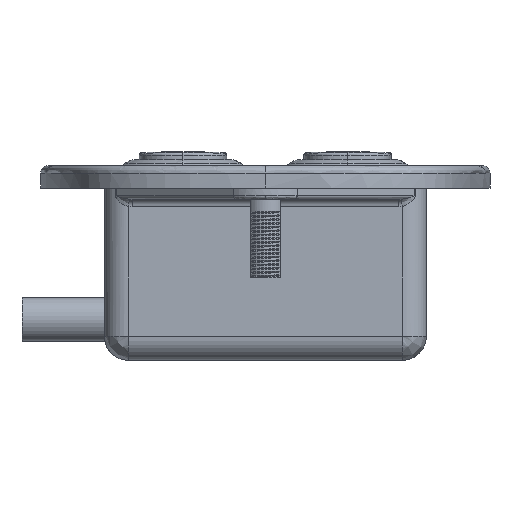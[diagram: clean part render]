
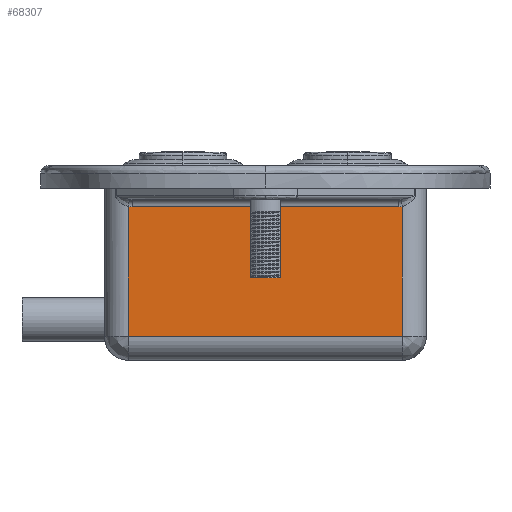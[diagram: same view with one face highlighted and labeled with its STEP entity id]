
A CAD part, left-side view. The second image highlights one B-rep face of the part: STEP entity #68307.
In plain terms, the highlighted planar face has unit normal (-1, 0, 0).
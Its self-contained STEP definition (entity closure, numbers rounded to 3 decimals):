
#197 = B_SPLINE_CURVE_WITH_KNOTS ( 'NONE', 3,
 ( #41383, #93366, #126790, #41829 ),
 .UNSPECIFIED., .F., .F.,
 ( 4, 4 ),
 ( 0., 1. ),
 .UNSPECIFIED. ) ;
#401 = VERTEX_POINT ( 'NONE', #64191 ) ;
#1381 = LINE ( 'NONE', #44024, #36023 ) ;
#1688 = ORIENTED_EDGE ( 'NONE', *, *, #85361, .T. ) ;
#3763 = EDGE_CURVE ( 'NONE', #90637, #101911, #119377, .T. ) ;
#7735 = CARTESIAN_POINT ( 'NONE',  ( -48., -18.3, -22.8 ) ) ;
#8974 = VERTEX_POINT ( 'NONE', #37487 ) ;
#22528 = ORIENTED_EDGE ( 'NONE', *, *, #125964, .T. ) ;
#23886 = VECTOR ( 'NONE', #99784, 1000. ) ;
#23968 = EDGE_CURVE ( 'NONE', #56905, #73973, #36510, .T. ) ;
#27788 = LINE ( 'NONE', #50992, #98562 ) ;
#30096 = EDGE_LOOP ( 'NONE', ( #1688, #108242, #22528, #70839, #40248, #120038 ) ) ;
#33458 = CARTESIAN_POINT ( 'NONE',  ( -48., 21.5, -5.5 ) ) ;
#36023 = VECTOR ( 'NONE', #88210, 1000. ) ;
#36510 = LINE ( 'NONE', #33458, #123608 ) ;
#36633 = CARTESIAN_POINT ( 'NONE',  ( -48., -17.955, -5.5 ) ) ;
#37487 = CARTESIAN_POINT ( 'NONE',  ( -48., 18.3, -5.454 ) ) ;
#40248 = ORIENTED_EDGE ( 'NONE', *, *, #87559, .F. ) ;
#41383 = CARTESIAN_POINT ( 'NONE',  ( -48., 17.778, -5.5 ) ) ;
#41829 = CARTESIAN_POINT ( 'NONE',  ( -48., 18.3, -5.454 ) ) ;
#42170 = CARTESIAN_POINT ( 'NONE',  ( -48., -18.3, -5.454 ) ) ;
#44024 = CARTESIAN_POINT ( 'NONE',  ( -48., 18.3, -3. ) ) ;
#44355 = CARTESIAN_POINT ( 'NONE',  ( -48., 17.778, -5.5 ) ) ;
#50992 = CARTESIAN_POINT ( 'NONE',  ( -48., 21.5, -22.8 ) ) ;
#56905 = VERTEX_POINT ( 'NONE', #44355 ) ;
#59606 = CARTESIAN_POINT ( 'NONE',  ( -48., -17.778, -5.5 ) ) ;
#64191 = CARTESIAN_POINT ( 'NONE',  ( -48., 18.3, -22.8 ) ) ;
#68294 = CARTESIAN_POINT ( 'NONE',  ( -48., -17.778, -5.5 ) ) ;
#68307 = ADVANCED_FACE ( 'NONE', ( #129198 ), #82271, .F. ) ;
#70839 = ORIENTED_EDGE ( 'NONE', *, *, #88087, .F. ) ;
#73973 = VERTEX_POINT ( 'NONE', #59606 ) ;
#79985 = AXIS2_PLACEMENT_3D ( 'NONE', #134603, #92883, #104353 ) ;
#82271 = PLANE ( 'NONE',  #79985 ) ;
#85361 = EDGE_CURVE ( 'NONE', #90637, #73973, #104921, .T. ) ;
#87559 = EDGE_CURVE ( 'NONE', #101911, #401, #27788, .T. ) ;
#88087 = EDGE_CURVE ( 'NONE', #401, #8974, #1381, .T. ) ;
#88210 = DIRECTION ( 'NONE',  ( 0., 0., 1. ) ) ;
#88573 = CARTESIAN_POINT ( 'NONE',  ( -48., -18.129, -5.485 ) ) ;
#90637 = VERTEX_POINT ( 'NONE', #42170 ) ;
#92883 = DIRECTION ( 'NONE',  ( 1., 0., 0. ) ) ;
#93366 = CARTESIAN_POINT ( 'NONE',  ( -48., 17.955, -5.5 ) ) ;
#98562 = VECTOR ( 'NONE', #104325, 1000. ) ;
#99784 = DIRECTION ( 'NONE',  ( 0., 0., -1. ) ) ;
#101911 = VERTEX_POINT ( 'NONE', #7735 ) ;
#104325 = DIRECTION ( 'NONE',  ( 0., 1., 0. ) ) ;
#104353 = DIRECTION ( 'NONE',  ( 0., 1., 0. ) ) ;
#104921 = B_SPLINE_CURVE_WITH_KNOTS ( 'NONE', 3,
 ( #109687, #88573, #36633, #68294 ),
 .UNSPECIFIED., .F., .F.,
 ( 4, 4 ),
 ( 0., 1. ),
 .UNSPECIFIED. ) ;
#107904 = DIRECTION ( 'NONE',  ( 0., -1., 0. ) ) ;
#108242 = ORIENTED_EDGE ( 'NONE', *, *, #23968, .F. ) ;
#109687 = CARTESIAN_POINT ( 'NONE',  ( -48., -18.3, -5.454 ) ) ;
#119377 = LINE ( 'NONE', #121284, #23886 ) ;
#120038 = ORIENTED_EDGE ( 'NONE', *, *, #3763, .F. ) ;
#121284 = CARTESIAN_POINT ( 'NONE',  ( -48., -18.3, -3. ) ) ;
#123608 = VECTOR ( 'NONE', #107904, 1000. ) ;
#125964 = EDGE_CURVE ( 'NONE', #56905, #8974, #197, .T. ) ;
#126790 = CARTESIAN_POINT ( 'NONE',  ( -48., 18.129, -5.485 ) ) ;
#129198 = FACE_OUTER_BOUND ( 'NONE', #30096, .T. ) ;
#134603 = CARTESIAN_POINT ( 'NONE',  ( -48., 21.5, -3. ) ) ;
